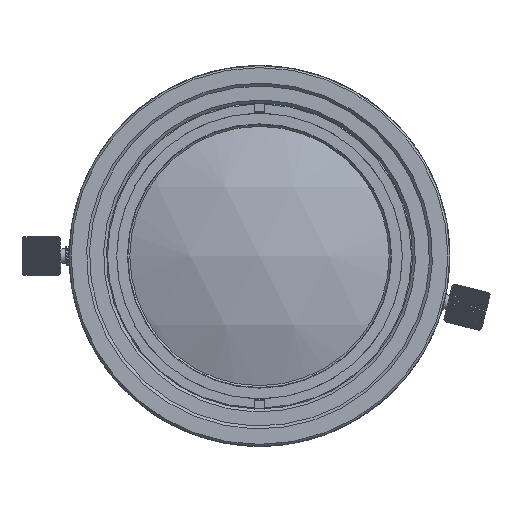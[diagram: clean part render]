
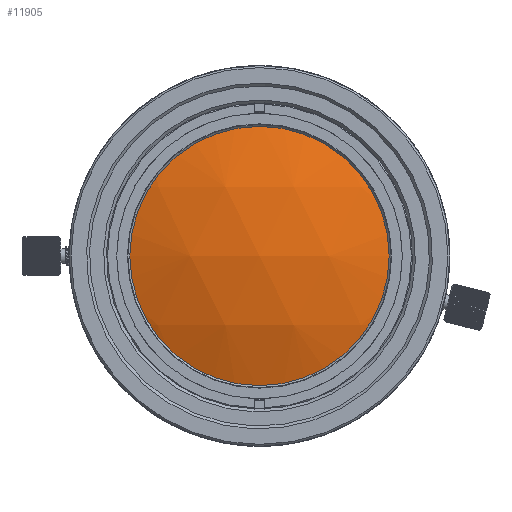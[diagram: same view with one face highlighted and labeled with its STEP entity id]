
A CAD part, left-side view. The second image highlights one B-rep face of the part: STEP entity #11905.
In plain terms, the highlighted spherical face has radius 37.482 mm.
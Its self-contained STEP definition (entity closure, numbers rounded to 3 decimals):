
#3544 = DIRECTION ( 'NONE',  ( 0., -1., 0. ) ) ;
#7524 = CARTESIAN_POINT ( 'NONE',  ( 18.211, 0., 0. ) ) ;
#9796 = CARTESIAN_POINT ( 'NONE',  ( 18.211, 0., 14. ) ) ;
#11905 = ADVANCED_FACE ( 'NONE', ( #30377 ), #38520, .T. ) ;
#14526 = DIRECTION ( 'NONE',  ( 1., 0., 0. ) ) ;
#17088 = CIRCLE ( 'NONE', #27903, 14. ) ;
#20418 = DIRECTION ( 'NONE',  ( 0., 0., -1. ) ) ;
#20912 = DIRECTION ( 'NONE',  ( 0., 0., 1. ) ) ;
#23578 = AXIS2_PLACEMENT_3D ( 'NONE', #41662, #20418, #3544 ) ;
#27496 = ORIENTED_EDGE ( 'NONE', *, *, #27589, .F. ) ;
#27589 = EDGE_CURVE ( 'NONE', #35851, #35851, #17088, .T. ) ;
#27903 = AXIS2_PLACEMENT_3D ( 'NONE', #7524, #14526, #20912 ) ;
#30377 = FACE_OUTER_BOUND ( 'NONE', #35176, .T. ) ;
#35176 = EDGE_LOOP ( 'NONE', ( #27496 ) ) ;
#35851 = VERTEX_POINT ( 'NONE', #9796 ) ;
#38520 = SPHERICAL_SURFACE ( 'NONE', #23578, 37.482 ) ;
#41662 = CARTESIAN_POINT ( 'NONE',  ( 52.98, 0., 0. ) ) ;
